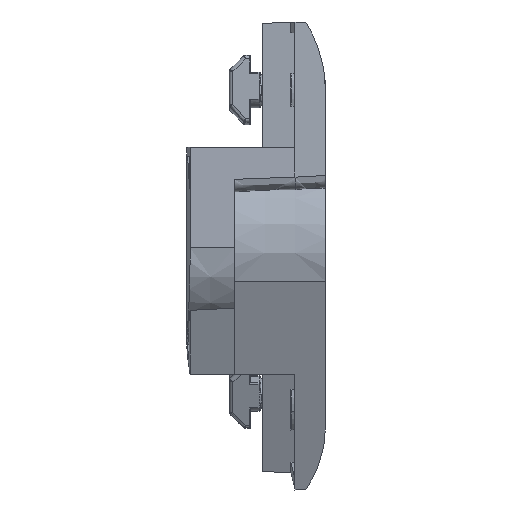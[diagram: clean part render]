
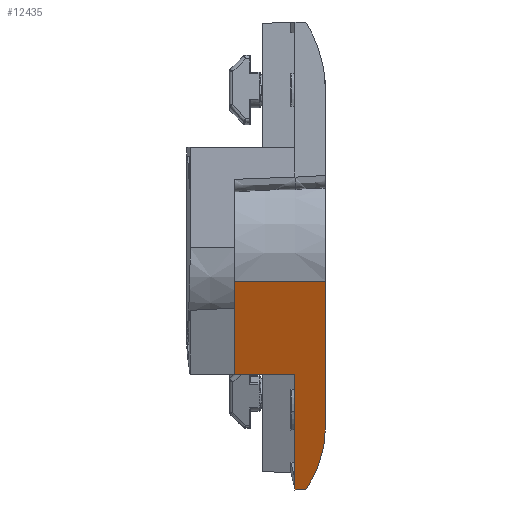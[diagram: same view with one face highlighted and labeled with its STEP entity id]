
A CAD part, front view. The second image highlights one B-rep face of the part: STEP entity #12435.
In plain terms, the highlighted planar face has unit normal (0.018, -0.924, -0.383) as drawn and (0.017, -1, 0) by its records, which use the part's own axes.
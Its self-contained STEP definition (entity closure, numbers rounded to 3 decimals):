
#135 = VERTEX_POINT ( 'NONE', #14524 ) ;
#1744 = EDGE_CURVE ( 'NONE', #8550, #5529, #13005, .T. ) ;
#1925 = DIRECTION ( 'NONE',  ( 0., 0., -1. ) ) ;
#2102 = ORIENTED_EDGE ( 'NONE', *, *, #1744, .T. ) ;
#3172 = EDGE_CURVE ( 'NONE', #20721, #135, #18616, .T. ) ;
#3183 = CARTESIAN_POINT ( 'NONE',  ( 29.974, 0.296, 53. ) ) ;
#4097 = CARTESIAN_POINT ( 'NONE',  ( 36.215, 0.405, -28.904 ) ) ;
#4558 = VERTEX_POINT ( 'NONE', #23459 ) ;
#4609 = EDGE_CURVE ( 'NONE', #8550, #22033, #11753, .T. ) ;
#4707 = CARTESIAN_POINT ( 'NONE',  ( 33.016, 0.349, -34.894 ) ) ;
#4770 = VERTEX_POINT ( 'NONE', #10868 ) ;
#5168 = CARTESIAN_POINT ( 'NONE',  ( 13., 0., 28. ) ) ;
#5529 = VERTEX_POINT ( 'NONE', #18291 ) ;
#5792 = DIRECTION ( 'NONE',  ( 0.017, -1., 0. ) ) ;
#6801 = EDGE_CURVE ( 'NONE', #4558, #8820, #8563, .T. ) ;
#7206 = CARTESIAN_POINT ( 'NONE',  ( 13., 0., 0. ) ) ;
#7229 = VECTOR ( 'NONE', #24879, 1000. ) ;
#7449 = EDGE_CURVE ( 'NONE', #4770, #135, #24569, .T. ) ;
#7804 = LINE ( 'NONE', #9440, #23166 ) ;
#7996 = ORIENTED_EDGE ( 'NONE', *, *, #4609, .F. ) ;
#8446 = VECTOR ( 'NONE', #8946, 1000. ) ;
#8550 = VERTEX_POINT ( 'NONE', #5168 ) ;
#8563 = B_SPLINE_CURVE_WITH_KNOTS ( 'NONE', 3,
 ( #14989, #22712, #11268, #4097, #17503, #15370 ),
 .UNSPECIFIED., .F., .F.,
 ( 4, 2, 4 ),
 ( 0., 0.5, 1. ),
 .UNSPECIFIED. ) ;
#8612 = DIRECTION ( 'NONE',  ( 0., 0., -1. ) ) ;
#8820 = VERTEX_POINT ( 'NONE', #4707 ) ;
#8946 = DIRECTION ( 'NONE',  ( 0., 0., 1. ) ) ;
#9440 = CARTESIAN_POINT ( 'NONE',  ( 29.813, 0.293, -35.006 ) ) ;
#10011 = DIRECTION ( 'NONE',  ( 0., 0., -1. ) ) ;
#10123 = VECTOR ( 'NONE', #19771, 1000. ) ;
#10688 = VECTOR ( 'NONE', #8612, 1000. ) ;
#10868 = CARTESIAN_POINT ( 'NONE',  ( 29.974, 0.296, -35. ) ) ;
#11268 = CARTESIAN_POINT ( 'NONE',  ( 38.044, 0.437, -22.537 ) ) ;
#11323 = CARTESIAN_POINT ( 'NONE',  ( 13., 0., 53. ) ) ;
#11753 = LINE ( 'NONE', #17512, #10123 ) ;
#12435 = ADVANCED_FACE ( 'NONE', ( #20990 ), #16943, .T. ) ;
#13005 = LINE ( 'NONE', #15253, #7229 ) ;
#13812 = ORIENTED_EDGE ( 'NONE', *, *, #20208, .T. ) ;
#13836 = EDGE_CURVE ( 'NONE', #4770, #8820, #7804, .T. ) ;
#14524 = CARTESIAN_POINT ( 'NONE',  ( 29.974, 0.296, 0. ) ) ;
#14581 = DIRECTION ( 'NONE',  ( 1., 0.017, 0. ) ) ;
#14668 = CARTESIAN_POINT ( 'NONE',  ( 38.5, 0.445, 28. ) ) ;
#14706 = VECTOR ( 'NONE', #10011, 1000. ) ;
#14989 = CARTESIAN_POINT ( 'NONE',  ( 38.5, 0.445, -16. ) ) ;
#15253 = CARTESIAN_POINT ( 'NONE',  ( 13., 0., 53. ) ) ;
#15370 = CARTESIAN_POINT ( 'NONE',  ( 33.016, 0.349, -34.894 ) ) ;
#16943 = PLANE ( 'NONE',  #18849 ) ;
#17036 = ORIENTED_EDGE ( 'NONE', *, *, #6801, .F. ) ;
#17503 = CARTESIAN_POINT ( 'NONE',  ( 34.844, 0.381, -31.998 ) ) ;
#17512 = CARTESIAN_POINT ( 'NONE',  ( 13.436, 0.008, 28. ) ) ;
#17775 = EDGE_LOOP ( 'NONE', ( #2102, #13812, #23505, #23042, #18413, #17036, #23703, #7996 ) ) ;
#18223 = CARTESIAN_POINT ( 'NONE',  ( 13., 0., 0. ) ) ;
#18291 = CARTESIAN_POINT ( 'NONE',  ( 13., 0., 20.077 ) ) ;
#18413 = ORIENTED_EDGE ( 'NONE', *, *, #13836, .T. ) ;
#18616 = LINE ( 'NONE', #18223, #21724 ) ;
#18849 = AXIS2_PLACEMENT_3D ( 'NONE', #11323, #5792, #1925 ) ;
#19537 = CARTESIAN_POINT ( 'NONE',  ( 38.5, 0.445, 53. ) ) ;
#19771 = DIRECTION ( 'NONE',  ( 1., 0.017, 0. ) ) ;
#19996 = EDGE_CURVE ( 'NONE', #22033, #4558, #23458, .T. ) ;
#20208 = EDGE_CURVE ( 'NONE', #5529, #20721, #24086, .T. ) ;
#20721 = VERTEX_POINT ( 'NONE', #7206 ) ;
#20990 = FACE_OUTER_BOUND ( 'NONE', #17775, .T. ) ;
#21234 = DIRECTION ( 'NONE',  ( 0.999, 0.017, 0.035 ) ) ;
#21724 = VECTOR ( 'NONE', #14581, 1000. ) ;
#22033 = VERTEX_POINT ( 'NONE', #14668 ) ;
#22712 = CARTESIAN_POINT ( 'NONE',  ( 38.5, 0.445, -19.265 ) ) ;
#23042 = ORIENTED_EDGE ( 'NONE', *, *, #7449, .F. ) ;
#23166 = VECTOR ( 'NONE', #21234, 1000. ) ;
#23458 = LINE ( 'NONE', #19537, #14706 ) ;
#23459 = CARTESIAN_POINT ( 'NONE',  ( 38.5, 0.445, -16. ) ) ;
#23505 = ORIENTED_EDGE ( 'NONE', *, *, #3172, .T. ) ;
#23703 = ORIENTED_EDGE ( 'NONE', *, *, #19996, .F. ) ;
#24086 = LINE ( 'NONE', #24224, #10688 ) ;
#24224 = CARTESIAN_POINT ( 'NONE',  ( 13., 0., 53. ) ) ;
#24569 = LINE ( 'NONE', #3183, #8446 ) ;
#24879 = DIRECTION ( 'NONE',  ( 0., 0., -1. ) ) ;
